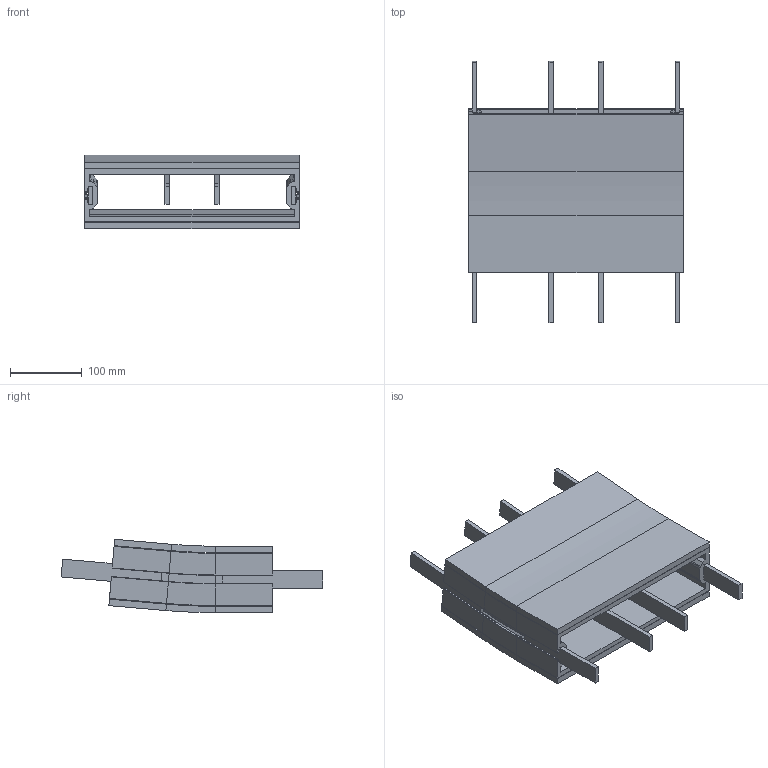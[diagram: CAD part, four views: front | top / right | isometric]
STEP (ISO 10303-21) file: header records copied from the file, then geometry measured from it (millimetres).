
FILE_DESCRIPTION (( 'STEP AP214' ), '1' );
FILE_NAME ('FBBV 5A300R750L80L80.00.step', '2026-05-29T10:33:27', ( '' ), ( '' ), 'SwSTEP 2.0', 'SolidWorks 2024', '' );
FILE_SCHEMA (( 'AUTOMOTIVE_DESIGN' ));
Length unit declared in the file: millimetre
Products named in the file (1): FBBV 5A300R750L80L80.00
Bounding box: 300 x 365.89 x 102.65 mm (x, y, z)
Volume: 2602566.7 mm3; surface area: 719934.8 mm2
Topology: 11 solids, 11 shells, 375 faces, 845 edges, 492 vertices
Faces by surface type: plane 278, cone 66, cylinder 26, torus 5
Entity records: 10191 total; most frequent: DIRECTION 1724, CARTESIAN_POINT 1713, ORIENTED_EDGE 1690, EDGE_CURVE 845, VECTOR 718, LINE 718, AXIS2_PLACEMENT_3D 503, VERTEX_POINT 492
